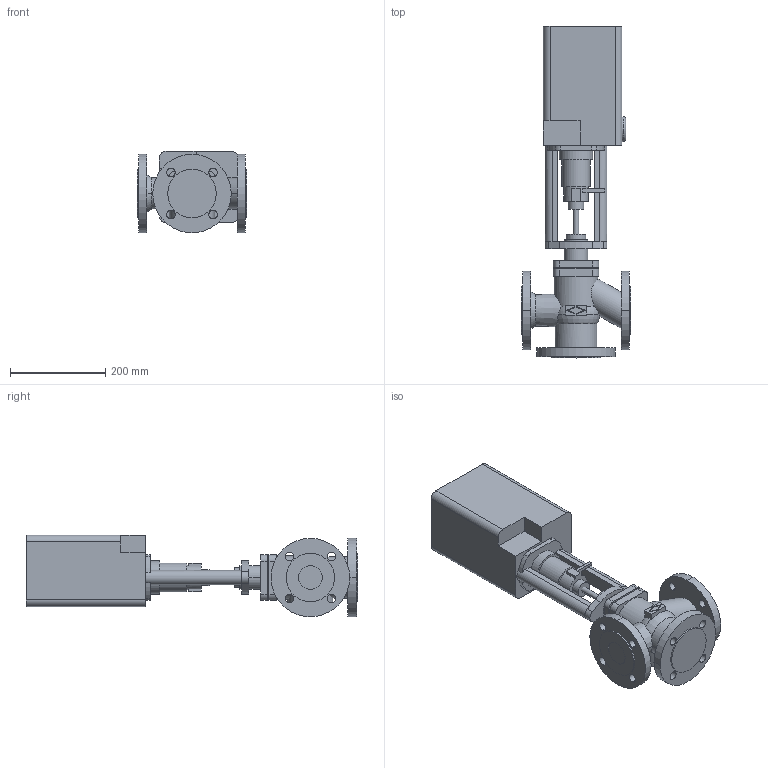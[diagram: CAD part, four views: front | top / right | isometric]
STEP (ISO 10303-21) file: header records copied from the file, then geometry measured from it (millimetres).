
FILE_DESCRIPTION(('OneSpaceDesigner STEP Export'),'2;1');
FILE_NAME('c000002390.stp','2006-09-19T11:57:35',(''),(''),'OneSpace Designer STEP processor for AP214 (Solid Model)','OneSpace Designer 13.20A 18-Aug-2005 (C) CoCreate Software GmbH','');
FILE_SCHEMA(('AUTOMOTIVE_DESIGN { 1 0 10303 214 1 1 1 1 }'));
Length unit declared in the file: millimetre
Products named in the file (2): 1; 2
Bounding box: 230 x 697.5 x 171.5 mm (x, y, z)
Volume: 9864242.5 mm3; surface area: 541800.3 mm2
Topology: 2 solids, 2 shells, 196 faces, 496 edges, 328 vertices
Faces by surface type: cylinder 94, plane 90, torus 8, cone 4
Entity records: 5851 total; most frequent: CARTESIAN_POINT 1339, ORIENTED_EDGE 992, DIRECTION 845, EDGE_CURVE 496, VERTEX_POINT 328, AXIS2_PLACEMENT_3D 294, VECTOR 257, LINE 257
